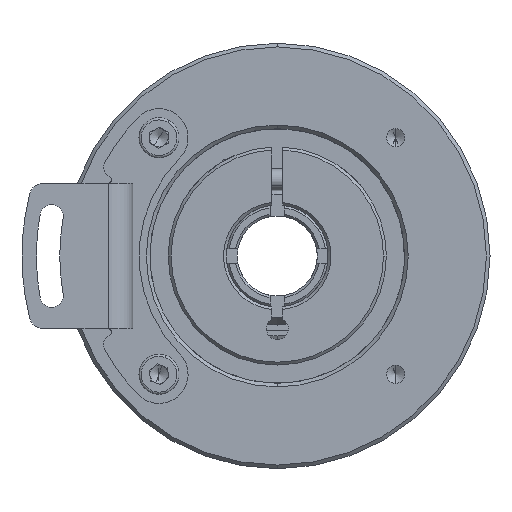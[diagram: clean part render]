
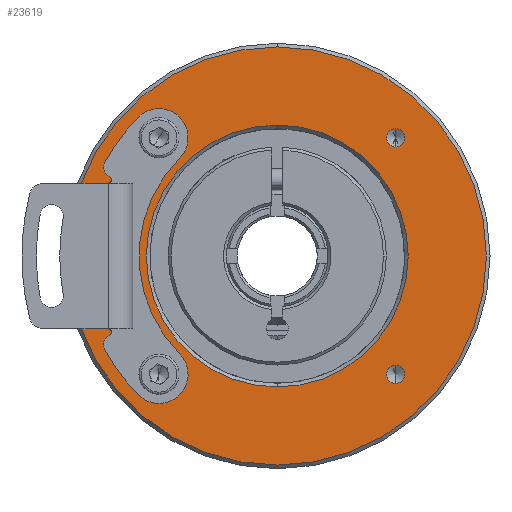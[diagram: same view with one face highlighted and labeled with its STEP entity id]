
A CAD part, front view. The second image highlights one B-rep face of the part: STEP entity #23619.
In plain terms, the highlighted planar face has unit normal (0, -1, 0).
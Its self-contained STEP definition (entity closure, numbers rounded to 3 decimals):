
#435 = AXIS2_PLACEMENT_3D ( 'NONE', #9827, #29676, #7477 ) ;
#748 = ORIENTED_EDGE ( 'NONE', *, *, #8381, .F. ) ;
#868 = VERTEX_POINT ( 'NONE', #24471 ) ;
#1509 = EDGE_CURVE ( 'NONE', #3192, #26018, #16029, .T. ) ;
#1795 = ORIENTED_EDGE ( 'NONE', *, *, #16447, .F. ) ;
#2129 = DIRECTION ( 'NONE',  ( 0., -1., 0. ) ) ;
#2347 = DIRECTION ( 'NONE',  ( 0., -1., 0. ) ) ;
#2713 = EDGE_CURVE ( 'NONE', #15698, #3019, #25683, .T. ) ;
#2902 = VERTEX_POINT ( 'NONE', #19772 ) ;
#3019 = VERTEX_POINT ( 'NONE', #18965 ) ;
#3192 = VERTEX_POINT ( 'NONE', #17328 ) ;
#3314 = DIRECTION ( 'NONE',  ( 0., 0., -1. ) ) ;
#3842 = VERTEX_POINT ( 'NONE', #23448 ) ;
#4008 = DIRECTION ( 'NONE',  ( 0., -1., 0. ) ) ;
#4038 = DIRECTION ( 'NONE',  ( 0., -1., 0. ) ) ;
#4389 = ORIENTED_EDGE ( 'NONE', *, *, #31706, .F. ) ;
#4521 = AXIS2_PLACEMENT_3D ( 'NONE', #29246, #4038, #29035 ) ;
#4671 = AXIS2_PLACEMENT_3D ( 'NONE', #12415, #2347, #12857 ) ;
#5424 = CARTESIAN_POINT ( 'NONE',  ( -16.263, 0., -17.513 ) ) ;
#5457 = CIRCLE ( 'NONE', #435, 1.25 ) ;
#5821 = EDGE_CURVE ( 'NONE', #17799, #30735, #13158, .T. ) ;
#5946 = AXIS2_PLACEMENT_3D ( 'NONE', #19260, #32086, #27214 ) ;
#5957 = DIRECTION ( 'NONE',  ( 0., -1., 0. ) ) ;
#6491 = EDGE_LOOP ( 'NONE', ( #4389, #29095 ) ) ;
#7159 = CARTESIAN_POINT ( 'NONE',  ( 0., 0., 0. ) ) ;
#7465 = AXIS2_PLACEMENT_3D ( 'NONE', #31712, #4008, #17059 ) ;
#7477 = DIRECTION ( 'NONE',  ( 0., 0., -1. ) ) ;
#7894 = ORIENTED_EDGE ( 'NONE', *, *, #20336, .T. ) ;
#8125 = VERTEX_POINT ( 'NONE', #13332 ) ;
#8322 = ORIENTED_EDGE ( 'NONE', *, *, #12015, .F. ) ;
#8381 = EDGE_CURVE ( 'NONE', #868, #8125, #19372, .T. ) ;
#8631 = CARTESIAN_POINT ( 'NONE',  ( -16.263, 0., 16.263 ) ) ;
#9382 = EDGE_LOOP ( 'NONE', ( #28871, #10205 ) ) ;
#9397 = CIRCLE ( 'NONE', #5946, 1.25 ) ;
#9507 = DIRECTION ( 'NONE',  ( 0., -1., 0. ) ) ;
#9554 = EDGE_CURVE ( 'NONE', #29075, #2902, #19183, .T. ) ;
#9827 = CARTESIAN_POINT ( 'NONE',  ( 16.263, 0., 16.263 ) ) ;
#10205 = ORIENTED_EDGE ( 'NONE', *, *, #9554, .F. ) ;
#10880 = FACE_OUTER_BOUND ( 'NONE', #26374, .T. ) ;
#11774 = AXIS2_PLACEMENT_3D ( 'NONE', #15197, #17606, #24687 ) ;
#12015 = EDGE_CURVE ( 'NONE', #30735, #17799, #9397, .T. ) ;
#12088 = EDGE_LOOP ( 'NONE', ( #748, #1795 ) ) ;
#12415 = CARTESIAN_POINT ( 'NONE',  ( 0., 0., 0. ) ) ;
#12857 = DIRECTION ( 'NONE',  ( 0., 0., -1. ) ) ;
#13158 = CIRCLE ( 'NONE', #14030, 1.25 ) ;
#13244 = DIRECTION ( 'NONE',  ( 0., 1., 0. ) ) ;
#13332 = CARTESIAN_POINT ( 'NONE',  ( 16.263, 0., 17.513 ) ) ;
#13796 = CARTESIAN_POINT ( 'NONE',  ( 0., 0., 0. ) ) ;
#13972 = CIRCLE ( 'NONE', #4521, 1.25 ) ;
#14030 = AXIS2_PLACEMENT_3D ( 'NONE', #31320, #5957, #31116 ) ;
#14097 = AXIS2_PLACEMENT_3D ( 'NONE', #18133, #13244, #25346 ) ;
#14169 = CARTESIAN_POINT ( 'NONE',  ( 16.263, 0., 16.263 ) ) ;
#14195 = ORIENTED_EDGE ( 'NONE', *, *, #31325, .T. ) ;
#14403 = FACE_BOUND ( 'NONE', #16161, .T. ) ;
#14735 = VERTEX_POINT ( 'NONE', #26948 ) ;
#14777 = CIRCLE ( 'NONE', #14097, 18. ) ;
#14918 = DIRECTION ( 'NONE',  ( 0., 0., -1. ) ) ;
#15155 = CIRCLE ( 'NONE', #7465, 1.25 ) ;
#15197 = CARTESIAN_POINT ( 'NONE',  ( 0., 0., 0. ) ) ;
#15198 = FACE_BOUND ( 'NONE', #6491, .T. ) ;
#15276 = CIRCLE ( 'NONE', #32317, 1.25 ) ;
#15698 = VERTEX_POINT ( 'NONE', #24481 ) ;
#16029 = CIRCLE ( 'NONE', #11774, 18. ) ;
#16161 = EDGE_LOOP ( 'NONE', ( #7894, #31925 ) ) ;
#16447 = EDGE_CURVE ( 'NONE', #8125, #868, #5457, .T. ) ;
#17059 = DIRECTION ( 'NONE',  ( 0., 0., -1. ) ) ;
#17109 = EDGE_CURVE ( 'NONE', #2902, #29075, #13972, .T. ) ;
#17328 = CARTESIAN_POINT ( 'NONE',  ( 0., 0., 18. ) ) ;
#17418 = DIRECTION ( 'NONE',  ( 0., 0., -1. ) ) ;
#17482 = CARTESIAN_POINT ( 'NONE',  ( -16.263, 0., -15.013 ) ) ;
#17606 = DIRECTION ( 'NONE',  ( 0., 1., 0. ) ) ;
#17799 = VERTEX_POINT ( 'NONE', #17482 ) ;
#18133 = CARTESIAN_POINT ( 'NONE',  ( 0., 0., 0. ) ) ;
#18965 = CARTESIAN_POINT ( 'NONE',  ( 0., 0., -28.75 ) ) ;
#19183 = CIRCLE ( 'NONE', #21824, 1.25 ) ;
#19260 = CARTESIAN_POINT ( 'NONE',  ( -16.263, 0., -16.263 ) ) ;
#19372 = CIRCLE ( 'NONE', #24788, 1.25 ) ;
#19474 = CARTESIAN_POINT ( 'NONE',  ( 0., 0., -18. ) ) ;
#19772 = CARTESIAN_POINT ( 'NONE',  ( -16.263, 0., 15.013 ) ) ;
#20336 = EDGE_CURVE ( 'NONE', #26018, #3192, #14777, .T. ) ;
#21822 = FACE_BOUND ( 'NONE', #28626, .T. ) ;
#21824 = AXIS2_PLACEMENT_3D ( 'NONE', #8631, #30920, #3314 ) ;
#23448 = CARTESIAN_POINT ( 'NONE',  ( 16.263, 0., -17.513 ) ) ;
#23619 = ADVANCED_FACE ( 'NONE', ( #14403, #26092, #26870, #21822, #15198, #10880 ), #32005, .T. ) ;
#23910 = DIRECTION ( 'NONE',  ( 0., -1., 0. ) ) ;
#24021 = DIRECTION ( 'NONE',  ( 0., 0., -1. ) ) ;
#24471 = CARTESIAN_POINT ( 'NONE',  ( 16.263, 0., 15.013 ) ) ;
#24481 = CARTESIAN_POINT ( 'NONE',  ( 0., 0., 28.75 ) ) ;
#24583 = AXIS2_PLACEMENT_3D ( 'NONE', #13796, #23910, #24021 ) ;
#24687 = DIRECTION ( 'NONE',  ( 0., 0., -1. ) ) ;
#24788 = AXIS2_PLACEMENT_3D ( 'NONE', #14169, #29065, #31554 ) ;
#25346 = DIRECTION ( 'NONE',  ( 0., 0., -1. ) ) ;
#25683 = CIRCLE ( 'NONE', #24583, 28.75 ) ;
#25729 = AXIS2_PLACEMENT_3D ( 'NONE', #7159, #9507, #17418 ) ;
#26018 = VERTEX_POINT ( 'NONE', #19474 ) ;
#26078 = CIRCLE ( 'NONE', #25729, 28.75 ) ;
#26092 = FACE_BOUND ( 'NONE', #9382, .T. ) ;
#26374 = EDGE_LOOP ( 'NONE', ( #28955, #14195 ) ) ;
#26870 = FACE_BOUND ( 'NONE', #12088, .T. ) ;
#26948 = CARTESIAN_POINT ( 'NONE',  ( 16.263, 0., -15.013 ) ) ;
#27214 = DIRECTION ( 'NONE',  ( 0., 0., -1. ) ) ;
#27304 = CARTESIAN_POINT ( 'NONE',  ( -16.263, 0., 17.513 ) ) ;
#28626 = EDGE_LOOP ( 'NONE', ( #8322, #30851 ) ) ;
#28871 = ORIENTED_EDGE ( 'NONE', *, *, #17109, .F. ) ;
#28955 = ORIENTED_EDGE ( 'NONE', *, *, #2713, .T. ) ;
#29035 = DIRECTION ( 'NONE',  ( 0., 0., -1. ) ) ;
#29065 = DIRECTION ( 'NONE',  ( 0., -1., 0. ) ) ;
#29075 = VERTEX_POINT ( 'NONE', #27304 ) ;
#29095 = ORIENTED_EDGE ( 'NONE', *, *, #29876, .F. ) ;
#29246 = CARTESIAN_POINT ( 'NONE',  ( -16.263, 0., 16.263 ) ) ;
#29676 = DIRECTION ( 'NONE',  ( 0., -1., 0. ) ) ;
#29876 = EDGE_CURVE ( 'NONE', #14735, #3842, #15276, .T. ) ;
#30735 = VERTEX_POINT ( 'NONE', #5424 ) ;
#30851 = ORIENTED_EDGE ( 'NONE', *, *, #5821, .F. ) ;
#30920 = DIRECTION ( 'NONE',  ( 0., -1., 0. ) ) ;
#31116 = DIRECTION ( 'NONE',  ( 0., 0., -1. ) ) ;
#31320 = CARTESIAN_POINT ( 'NONE',  ( -16.263, 0., -16.263 ) ) ;
#31325 = EDGE_CURVE ( 'NONE', #3019, #15698, #26078, .T. ) ;
#31554 = DIRECTION ( 'NONE',  ( 0., 0., -1. ) ) ;
#31706 = EDGE_CURVE ( 'NONE', #3842, #14735, #15155, .T. ) ;
#31712 = CARTESIAN_POINT ( 'NONE',  ( 16.263, 0., -16.263 ) ) ;
#31925 = ORIENTED_EDGE ( 'NONE', *, *, #1509, .T. ) ;
#32005 = PLANE ( 'NONE',  #4671 ) ;
#32086 = DIRECTION ( 'NONE',  ( 0., -1., 0. ) ) ;
#32115 = CARTESIAN_POINT ( 'NONE',  ( 16.263, 0., -16.263 ) ) ;
#32317 = AXIS2_PLACEMENT_3D ( 'NONE', #32115, #2129, #14918 ) ;
